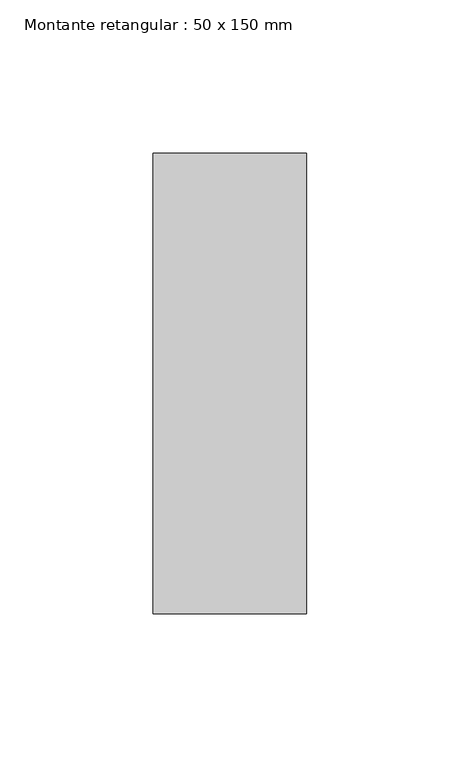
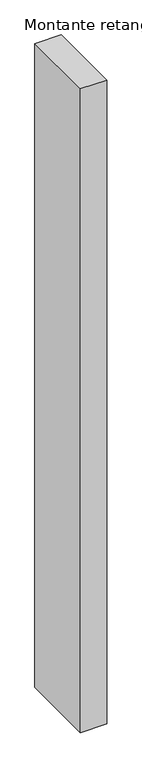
"""IFC4 building model written with IfcOpenShell, lengths in millimetres: member geometry, Montante retangular : 50 x 150 mm."""

from ifc_helpers import new_model, si_unit, frame, origin, place, context, project, spatial, polyline, outline, extrude, source, transform, mapped, element, save


def montante_retangular_50_x_150_mm_a22249d7(model_context):
    return source(origin(), model_context, "Body", "SweptSolid", [
        extrude(outline(polyline([(0.0, 75.0), (0.0, -75.0), (-50.0, -75.0), (-50.0, 75.0), (0.0, 75.0)])), frame((0.0, 0.0, -1294.1666667), z_axis=(0.0, 0.0, 1.0), x_axis=(1.0, 0.0, 0.0)), (0.0, 0.0, 1.0), 1294.1666667),
    ])


if __name__ == "__main__":
    model = new_model("IFC4")
    model_context = context("Model", 3, world=origin())
    ifc_project = project(units=[si_unit("LENGTHUNIT", "METRE", prefix="MILLI")], contexts=[model_context])
    site = spatial("IfcSite", under=ifc_project)
    building = spatial("IfcBuilding", under=site)
    placement = place(None, origin())
    montante_retangular_50_x_150_mm_shape = montante_retangular_50_x_150_mm_a22249d7(model_context)
    element("IfcMember", 1, ObjectType="Montante retangular : 50 x 150 mm", at=placement, inside=building, context=model_context, shape_type="MappedRepresentation", body=[
        mapped(montante_retangular_50_x_150_mm_shape, transform((0.0, 0.0, 0.0), x_axis=(1.0, 0.0, 0.0), y_axis=(0.0, 1.0, 0.0), z_axis=(0.0, 0.0, 1.0))),
    ])
    save(model, "model.ifc")
